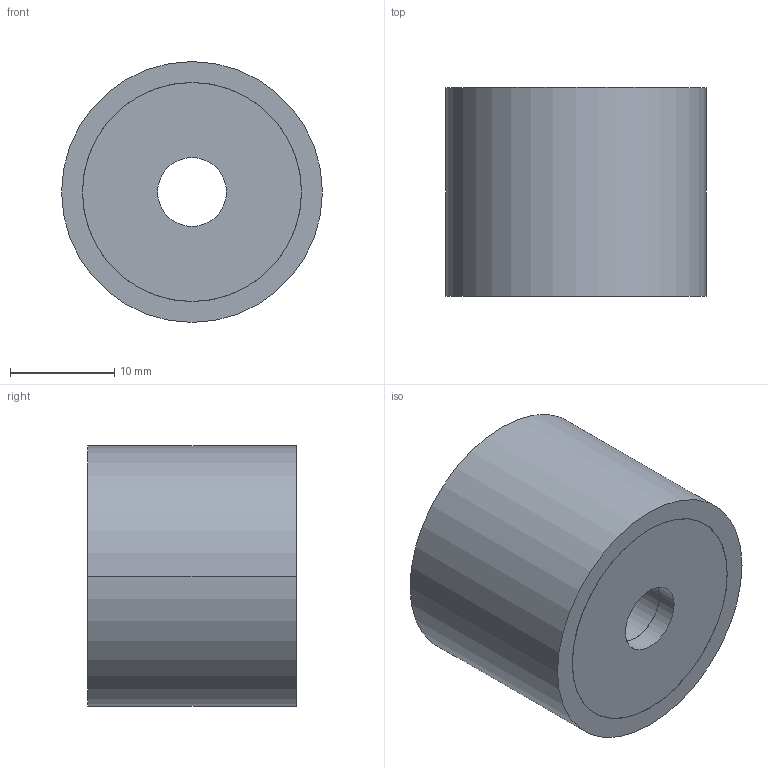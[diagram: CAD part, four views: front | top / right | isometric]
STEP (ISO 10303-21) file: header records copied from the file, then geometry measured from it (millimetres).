
FILE_DESCRIPTION (( 'STEP AP214' ), '1' );
FILE_NAME ('351-25-20-6,6-DD-55.step', '2025-07-23T10:12:28', ( '' ), ( '' ), 'SwSTEP 2.0', 'SolidWorks 2022', '' );
FILE_SCHEMA (( 'AUTOMOTIVE_DESIGN' ));
Length unit declared in the file: millimetre
Products named in the file (1): 351-25-20-6,6-DD-55
Bounding box: 25 x 20 x 25 mm (x, y, z)
Volume: 9133.2 mm3; surface area: 2902.3 mm2
Topology: 1 solids, 1 shells, 30 faces, 60 edges, 40 vertices
Faces by surface type: cylinder 20, plane 10
Entity records: 919 total; most frequent: DIRECTION 162, CARTESIAN_POINT 131, ORIENTED_EDGE 120, AXIS2_PLACEMENT_3D 71, EDGE_CURVE 60, EDGE_LOOP 40, CIRCLE 40, VERTEX_POINT 40
